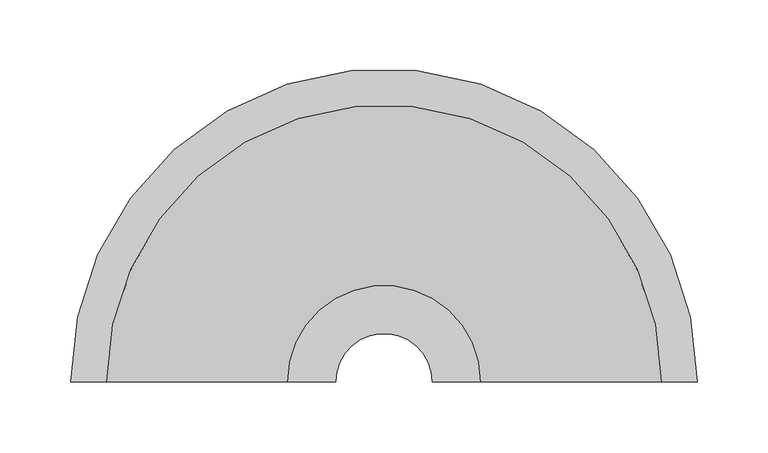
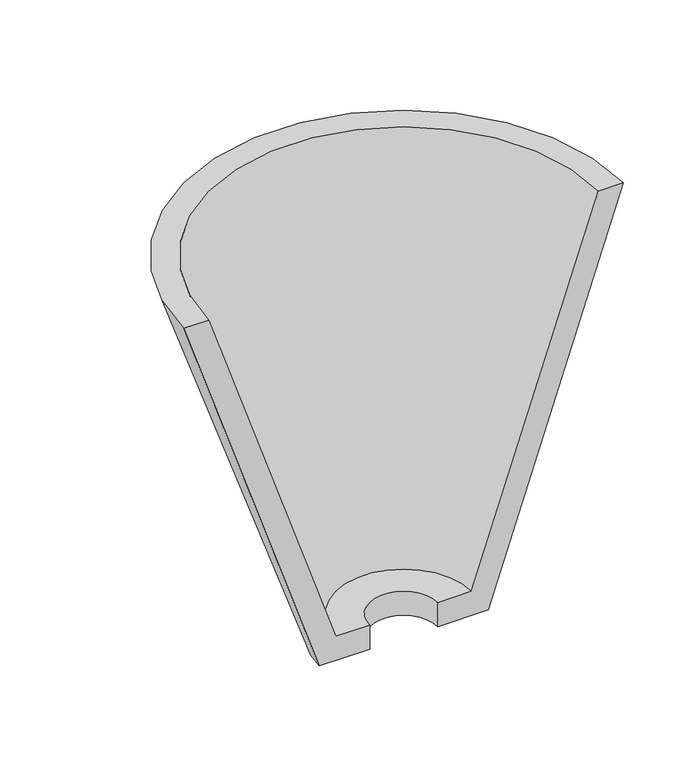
"""IFC4 building model written with IfcOpenShell, lengths in millimetres: light fixture geometry, M_Applique : 100 watt Incandescente."""

from ifc_helpers import new_model, si_unit, frame, origin, place, context, project, spatial, polyline, circle_curve, source, transform, mapped, element, save
from ifc_brep_helpers import plane_surface, revolved_surface, advanced_brep


def light_fixture_16639799(model_context):
    return source(origin(), model_context, "Body", "AdvancedBrep", [
        advanced_brep(
        [(-221.2056669, 76.2, 2103.2), (-85.0253975, 76.2, 1696.8), (-34.2253975, 76.2, 1696.8), (-34.2253975, 76.2, 1722.2), (-68.1366644, 76.2, 1722.2), (-195.8056669, 76.2, 2103.2), (221.2056669, 76.2, 2103.2), (195.8056669, 76.2, 2103.2), (68.1366644, 76.2, 1722.2), (34.2253975, 76.2, 1722.2), (34.2253975, 76.2, 1696.8), (85.0253975, 76.2, 1696.8)],
        [
            (0, 1),
            (1, 2),
            (2, 3),
            (3, 4),
            (4, 5),
            (5, 0),
            (6, 7),
            (7, 8),
            (8, 9),
            (9, 10),
            (10, 11),
            (11, 6),
            (11, 1, circle_curve(frame((0.0, 76.2, 1696.8), z_axis=(0.0, 0.0, 1.0), x_axis=(-1.0, 0.0, 0.0)), 85.0253975)),
            (0, 6, circle_curve(frame((0.0, 76.2, 2103.2), z_axis=(0.0, 0.0, -1.0), x_axis=(-1.0, 0.0, 0.0)), 221.2056669)),
            (10, 2, circle_curve(frame((0.0, 76.2, 1696.8), z_axis=(0.0, 0.0, 1.0), x_axis=(-1.0, 0.0, 0.0)), 34.2253975)),
            (9, 3, circle_curve(frame((0.0, 76.2, 1722.2), z_axis=(0.0, 0.0, 1.0), x_axis=(-1.0, 0.0, 0.0)), 34.2253975)),
            (8, 4, circle_curve(frame((0.0, 76.2, 1722.2), z_axis=(0.0, 0.0, 1.0), x_axis=(-1.0, 0.0, 0.0)), 68.1366644)),
            (7, 5, circle_curve(frame((0.0, 76.2, 2103.2), z_axis=(0.0, 0.0, 1.0), x_axis=(-1.0, 0.0, 0.0)), 195.8056669)),
        ],
        [
            plane_surface(frame((0.0, 76.2, 1936.774367), z_axis=(0.0, -1.0, 0.0), x_axis=(-1.0, 0.0, 0.0))),
            plane_surface(frame((0.0, 76.2, 1936.774367), z_axis=(0.0, -1.0, 0.0), x_axis=(1.0, 0.0, 0.0))),
            revolved_surface(polyline([(-221.2056669, 76.2, 2103.2), (-85.0253975, 76.2, 1696.8)]), (0.0, 76.2, 1936.774367), (0.0, 0.0, -1.0)),
            plane_surface(frame((0.0, 76.2, 1696.8), z_axis=(0.0, 0.0, -1.0), x_axis=(-1.0, 0.0, 0.0))),
            revolved_surface(polyline([(-34.2253975, 76.2, 1696.8), (-34.2253975, 76.2, 1722.2)]), (0.0, 76.2, 1936.774367), (0.0, 0.0, -1.0)),
            plane_surface(frame((0.0, 76.2, 1722.2), z_axis=(0.0, 0.0, 1.0), x_axis=(-1.0, 0.0, 0.0))),
            revolved_surface(polyline([(-68.1366644, 76.2, 1722.2), (-195.8056669, 76.2, 2103.2)]), (0.0, 76.2, 1936.774367), (0.0, 0.0, -1.0)),
            plane_surface(frame((0.0, 76.2, 2103.2), z_axis=(0.0, 0.0, 1.0), x_axis=(-1.0, 0.0, 0.0))),
        ],
        [
            (0, [[1, 2, 3, 4, 5, 6]]),
            (1, [[7, 8, 9, 10, 11, 12]]),
            (2, [[13, -1, 14, -12]]),
            (3, [[15, -2, -13, -11]]),
            (4, [[16, -3, -15, -10]]),
            (5, [[17, -4, -16, -9]]),
            (6, [[18, -5, -17, -8]]),
            (7, [[-14, -6, -18, -7]]),
        ],
    ),
    ])


if __name__ == "__main__":
    model = new_model("IFC4")
    model_context = context("Model", 3, world=origin())
    ifc_project = project(units=[si_unit("LENGTHUNIT", "METRE", prefix="MILLI")], contexts=[model_context])
    site = spatial("IfcSite", under=ifc_project)
    building = spatial("IfcBuilding", under=site)
    placement = place(None, origin())
    light_fixture_shape = light_fixture_16639799(model_context)
    element("IfcLightFixture", 1, ObjectType="M_Applique : 100 watt Incandescente", at=placement, inside=building, context=model_context, shape_type="MappedRepresentation", body=[
        mapped(light_fixture_shape, transform((0.0, 0.0, 0.0), x_axis=(1.0, 0.0, 0.0), y_axis=(0.0, 1.0, 0.0), z_axis=(0.0, 0.0, 1.0))),
    ])
    save(model, "model.ifc")
